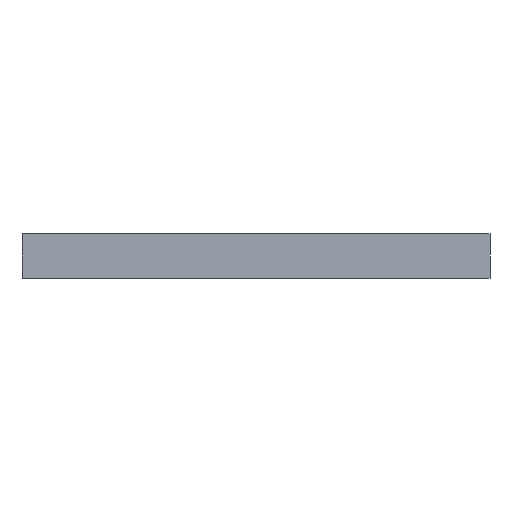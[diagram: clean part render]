
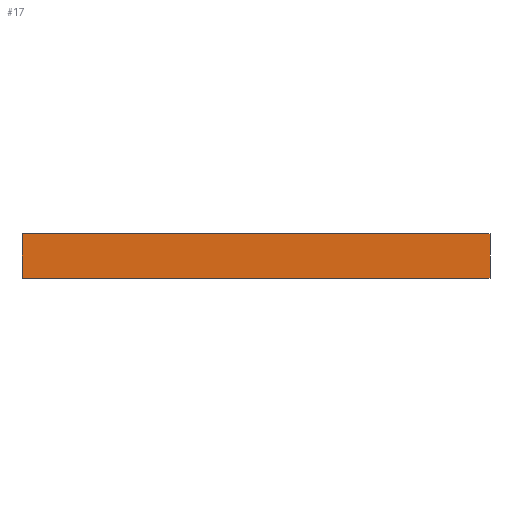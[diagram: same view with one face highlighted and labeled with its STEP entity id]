
A CAD part, left-side view. The second image highlights one B-rep face of the part: STEP entity #17.
In plain terms, the highlighted planar face has unit normal (-1, 0, 0).
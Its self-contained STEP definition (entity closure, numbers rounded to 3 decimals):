
#17 = ADVANCED_FACE('',(#18),#32,.F.);
#18 = FACE_BOUND('',#19,.F.);
#19 = EDGE_LOOP('',(#20,#55,#83,#111));
#20 = ORIENTED_EDGE('',*,*,#21,.F.);
#21 = EDGE_CURVE('',#22,#24,#26,.T.);
#22 = VERTEX_POINT('',#23);
#23 = CARTESIAN_POINT('',(-10.8,-44.5,17.75));
#24 = VERTEX_POINT('',#25);
#25 = CARTESIAN_POINT('',(-10.8,-44.5,19.35));
#26 = SURFACE_CURVE('',#27,(#31,#43),.PCURVE_S1.);
#27 = LINE('',#28,#29);
#28 = CARTESIAN_POINT('',(-10.8,-44.5,17.75));
#29 = VECTOR('',#30,1.);
#30 = DIRECTION('',(0.,0.,1.));
#31 = PCURVE('',#32,#37);
#32 = PLANE('',#33);
#33 = AXIS2_PLACEMENT_3D('',#34,#35,#36);
#34 = CARTESIAN_POINT('',(-10.8,-44.5,17.75));
#35 = DIRECTION('',(1.,0.,0.));
#36 = DIRECTION('',(0.,0.,1.));
#37 = DEFINITIONAL_REPRESENTATION('',(#38),#42);
#38 = LINE('',#39,#40);
#39 = CARTESIAN_POINT('',(0.,0.));
#40 = VECTOR('',#41,1.);
#41 = DIRECTION('',(1.,0.));
#42 = ( GEOMETRIC_REPRESENTATION_CONTEXT(2) 
PARAMETRIC_REPRESENTATION_CONTEXT() REPRESENTATION_CONTEXT('2D SPACE',''
  ) );
#43 = PCURVE('',#44,#49);
#44 = PLANE('',#45);
#45 = AXIS2_PLACEMENT_3D('',#46,#47,#48);
#46 = CARTESIAN_POINT('',(-10.8,-44.5,17.75));
#47 = DIRECTION('',(0.,1.,0.));
#48 = DIRECTION('',(0.,0.,1.));
#49 = DEFINITIONAL_REPRESENTATION('',(#50),#54);
#50 = LINE('',#51,#52);
#51 = CARTESIAN_POINT('',(0.,0.));
#52 = VECTOR('',#53,1.);
#53 = DIRECTION('',(1.,0.));
#54 = ( GEOMETRIC_REPRESENTATION_CONTEXT(2) 
PARAMETRIC_REPRESENTATION_CONTEXT() REPRESENTATION_CONTEXT('2D SPACE',''
  ) );
#55 = ORIENTED_EDGE('',*,*,#56,.T.);
#56 = EDGE_CURVE('',#22,#57,#59,.T.);
#57 = VERTEX_POINT('',#58);
#58 = CARTESIAN_POINT('',(-10.8,-27.5,17.75));
#59 = SURFACE_CURVE('',#60,(#64,#71),.PCURVE_S1.);
#60 = LINE('',#61,#62);
#61 = CARTESIAN_POINT('',(-10.8,-44.5,17.75));
#62 = VECTOR('',#63,1.);
#63 = DIRECTION('',(0.,1.,0.));
#64 = PCURVE('',#32,#65);
#65 = DEFINITIONAL_REPRESENTATION('',(#66),#70);
#66 = LINE('',#67,#68);
#67 = CARTESIAN_POINT('',(0.,0.));
#68 = VECTOR('',#69,1.);
#69 = DIRECTION('',(0.,-1.));
#70 = ( GEOMETRIC_REPRESENTATION_CONTEXT(2) 
PARAMETRIC_REPRESENTATION_CONTEXT() REPRESENTATION_CONTEXT('2D SPACE',''
  ) );
#71 = PCURVE('',#72,#77);
#72 = PLANE('',#73);
#73 = AXIS2_PLACEMENT_3D('',#74,#75,#76);
#74 = CARTESIAN_POINT('',(-10.8,-44.5,17.75));
#75 = DIRECTION('',(0.,0.,1.));
#76 = DIRECTION('',(1.,0.,0.));
#77 = DEFINITIONAL_REPRESENTATION('',(#78),#82);
#78 = LINE('',#79,#80);
#79 = CARTESIAN_POINT('',(0.,0.));
#80 = VECTOR('',#81,1.);
#81 = DIRECTION('',(0.,1.));
#82 = ( GEOMETRIC_REPRESENTATION_CONTEXT(2) 
PARAMETRIC_REPRESENTATION_CONTEXT() REPRESENTATION_CONTEXT('2D SPACE',''
  ) );
#83 = ORIENTED_EDGE('',*,*,#84,.T.);
#84 = EDGE_CURVE('',#57,#85,#87,.T.);
#85 = VERTEX_POINT('',#86);
#86 = CARTESIAN_POINT('',(-10.8,-27.5,19.35));
#87 = SURFACE_CURVE('',#88,(#92,#99),.PCURVE_S1.);
#88 = LINE('',#89,#90);
#89 = CARTESIAN_POINT('',(-10.8,-27.5,17.75));
#90 = VECTOR('',#91,1.);
#91 = DIRECTION('',(0.,0.,1.));
#92 = PCURVE('',#32,#93);
#93 = DEFINITIONAL_REPRESENTATION('',(#94),#98);
#94 = LINE('',#95,#96);
#95 = CARTESIAN_POINT('',(0.,-17.));
#96 = VECTOR('',#97,1.);
#97 = DIRECTION('',(1.,0.));
#98 = ( GEOMETRIC_REPRESENTATION_CONTEXT(2) 
PARAMETRIC_REPRESENTATION_CONTEXT() REPRESENTATION_CONTEXT('2D SPACE',''
  ) );
#99 = PCURVE('',#100,#105);
#100 = PLANE('',#101);
#101 = AXIS2_PLACEMENT_3D('',#102,#103,#104);
#102 = CARTESIAN_POINT('',(-10.8,-27.5,17.75));
#103 = DIRECTION('',(0.,1.,0.));
#104 = DIRECTION('',(0.,0.,1.));
#105 = DEFINITIONAL_REPRESENTATION('',(#106),#110);
#106 = LINE('',#107,#108);
#107 = CARTESIAN_POINT('',(0.,0.));
#108 = VECTOR('',#109,1.);
#109 = DIRECTION('',(1.,0.));
#110 = ( GEOMETRIC_REPRESENTATION_CONTEXT(2) 
PARAMETRIC_REPRESENTATION_CONTEXT() REPRESENTATION_CONTEXT('2D SPACE',''
  ) );
#111 = ORIENTED_EDGE('',*,*,#112,.F.);
#112 = EDGE_CURVE('',#24,#85,#113,.T.);
#113 = SURFACE_CURVE('',#114,(#118,#125),.PCURVE_S1.);
#114 = LINE('',#115,#116);
#115 = CARTESIAN_POINT('',(-10.8,-44.5,19.35));
#116 = VECTOR('',#117,1.);
#117 = DIRECTION('',(0.,1.,0.));
#118 = PCURVE('',#32,#119);
#119 = DEFINITIONAL_REPRESENTATION('',(#120),#124);
#120 = LINE('',#121,#122);
#121 = CARTESIAN_POINT('',(1.6,0.));
#122 = VECTOR('',#123,1.);
#123 = DIRECTION('',(0.,-1.));
#124 = ( GEOMETRIC_REPRESENTATION_CONTEXT(2) 
PARAMETRIC_REPRESENTATION_CONTEXT() REPRESENTATION_CONTEXT('2D SPACE',''
  ) );
#125 = PCURVE('',#126,#131);
#126 = PLANE('',#127);
#127 = AXIS2_PLACEMENT_3D('',#128,#129,#130);
#128 = CARTESIAN_POINT('',(-10.8,-44.5,19.35));
#129 = DIRECTION('',(0.,0.,1.));
#130 = DIRECTION('',(1.,0.,0.));
#131 = DEFINITIONAL_REPRESENTATION('',(#132),#136);
#132 = LINE('',#133,#134);
#133 = CARTESIAN_POINT('',(0.,0.));
#134 = VECTOR('',#135,1.);
#135 = DIRECTION('',(0.,1.));
#136 = ( GEOMETRIC_REPRESENTATION_CONTEXT(2) 
PARAMETRIC_REPRESENTATION_CONTEXT() REPRESENTATION_CONTEXT('2D SPACE',''
  ) );
